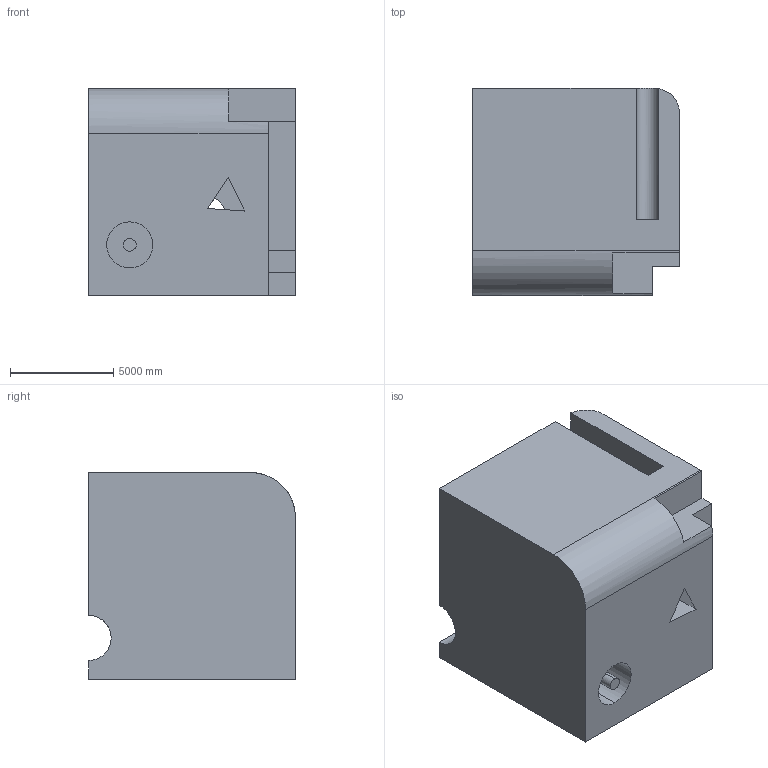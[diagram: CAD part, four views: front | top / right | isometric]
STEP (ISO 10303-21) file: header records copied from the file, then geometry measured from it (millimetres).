
FILE_DESCRIPTION (( 'STEP AP203' ), '1' );
FILE_NAME ('1981.STEP', '2022-08-23T10:13:50', ( 'user' ), ( '' ), 'SwSTEP 2.0', 'SolidWorks 2021', '' );
FILE_SCHEMA (( 'CONFIG_CONTROL_DESIGN' ));
Length unit declared in the file: centimetre
Products named in the file (1): 1981
Bounding box: 10000 x 10000 x 10000 mm (x, y, z)
Volume: 871772655928.9 mm3; surface area: 748791216.4 mm2
Topology: 1 solids, 1 shells, 38 faces, 105 edges, 70 vertices
Faces by surface type: plane 28, cylinder 10
Entity records: 1670 total; most frequent: CARTESIAN_POINT 599, ORIENTED_EDGE 210, DIRECTION 202, EDGE_CURVE 105, LINE 78, VECTOR 78, VERTEX_POINT 70, AXIS2_PLACEMENT_3D 62
